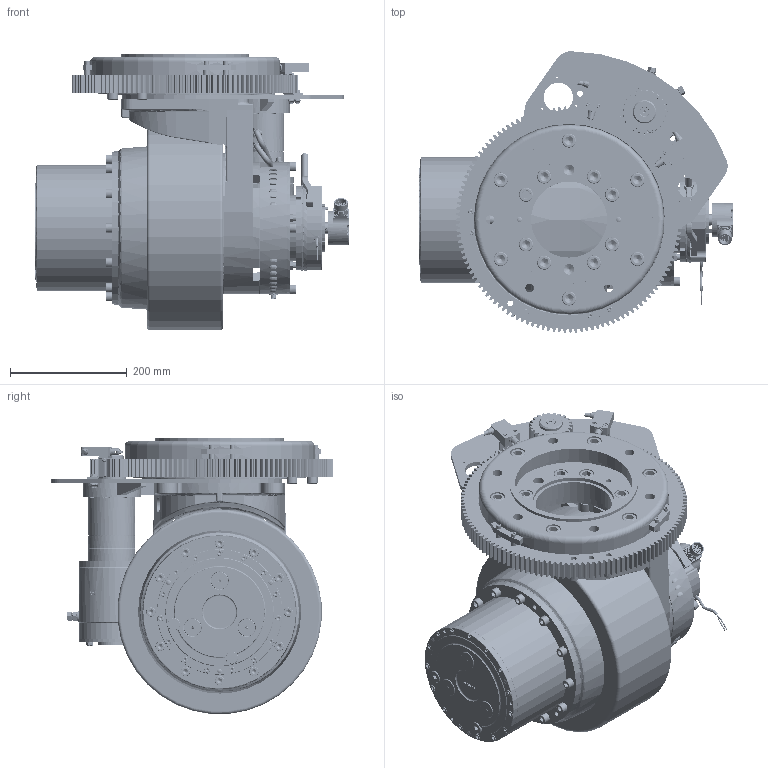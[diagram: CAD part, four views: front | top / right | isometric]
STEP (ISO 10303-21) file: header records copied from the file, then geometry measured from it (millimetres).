
FILE_DESCRIPTION(/* description */ (''),/* implementation_level */ '2;1');
FILE_NAME(/* name */ 'Z:\SITO WEB 2023\Motoruote\Orizzontali sterzanti\MR350FMS\MR350FMS DC + DC\MR350FMS-DC.stp',/* time_stamp */ '2023-08-02T08:26:42+02:00',/* author */ ('cad3'),/* organization */ (''),/* preprocessor_version */ 'ST-DEVELOPER v18.1',/* originating_system */ 'Autodesk Inventor 2022',/* authorisation */ '');
FILE_SCHEMA (('AUTOMOTIVE_DESIGN { 1 0 10303 214 3 1 1 }'));
Length unit declared in the file: millimetre
Products named in the file (1): MR350FMS-DC
Bounding box: 537.81 x 481.47 x 471.87 mm (x, y, z)
Volume: 21175967.7 mm3; surface area: 3005352.7 mm2
Topology: 28 solids, 188 shells, 14000 faces, 36284 edges, 23644 vertices
Faces by surface type: plane 9042, cylinder 3026, cone 892, bspline 549, torus 443, sphere 48
Full cylindrical faces by diameter (mm): 0.85 x12, 1 x12, 1.8 x12, 1.88 x2, 2 x14, 2.1 x8, 2.5 x10, 2.6 x1, 2.7 x1, 3 x14, 3.2 x3, 3.242 x5, 3.3 x8, 4 x10, 4.1 x2, 4.134 x9, 4.25 x2, 4.5 x12, 4.8 x8, 4.917 x27, 5 x34, 5.3 x3, 5.35 x11, 5.5 x9, 5.6 x3, 5.9 x4, 6 x57, 6.2 x2, 6.4 x16, 6.5 x33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
Entity records: 533422 total; most frequent: CARTESIAN_POINT 174838, ORIENTED_EDGE 72191, DIRECTION 71823, EDGE_CURVE 36117, AXIS2_PLACEMENT_3D 25814, VERTEX_POINT 23655, LINE 20195, VECTOR 20195
